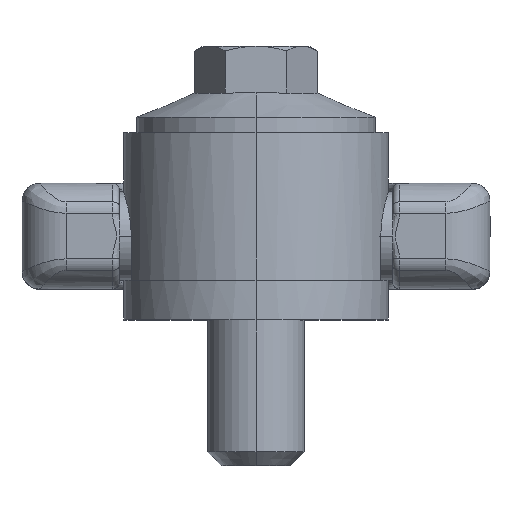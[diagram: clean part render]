
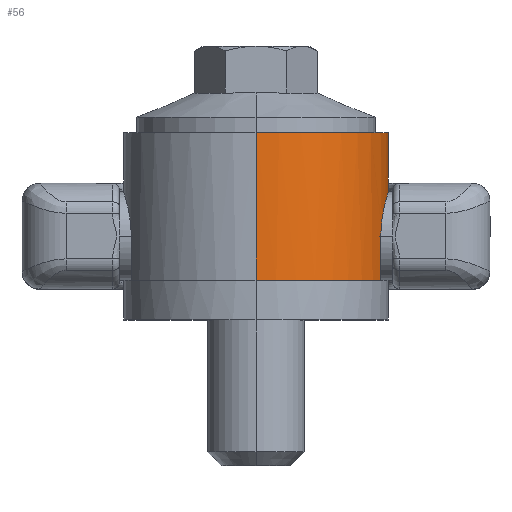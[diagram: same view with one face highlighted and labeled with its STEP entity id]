
A CAD part, top view. The second image highlights one B-rep face of the part: STEP entity #56.
In plain terms, the highlighted cylindrical face has radius 30 mm (diameter 60 mm), a partial arc.
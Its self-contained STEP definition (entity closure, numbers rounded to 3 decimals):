
#33 = EDGE_CURVE ( 'NONE', #55, #171, #5721, .T. ) ;
#38 = ORIENTED_EDGE ( 'NONE', *, *, #33, .T. ) ;
#39 = VERTEX_POINT ( 'NONE', #5768 ) ;
#50 = ORIENTED_EDGE ( 'NONE', *, *, #52, .F. ) ;
#52 = EDGE_CURVE ( 'NONE', #55, #39, #5809, .T. ) ;
#55 = VERTEX_POINT ( 'NONE', #5822 ) ;
#56 = ADVANCED_FACE ( 'NONE', ( #5821 ), #5820, .T. ) ;
#58 = EDGE_LOOP ( 'NONE', ( #50, #38, #275, #122, #117, #115, #96, #70 ) ) ;
#70 = ORIENTED_EDGE ( 'NONE', *, *, #156, .F. ) ;
#76 = EDGE_CURVE ( 'NONE', #77, #109, #5853, .T. ) ;
#77 = VERTEX_POINT ( 'NONE', #5849 ) ;
#96 = ORIENTED_EDGE ( 'NONE', *, *, #76, .F. ) ;
#109 = VERTEX_POINT ( 'NONE', #5937 ) ;
#114 = EDGE_CURVE ( 'NONE', #116, #109, #5925, .T. ) ;
#115 = ORIENTED_EDGE ( 'NONE', *, *, #114, .T. ) ;
#116 = VERTEX_POINT ( 'NONE', #5972 ) ;
#117 = ORIENTED_EDGE ( 'NONE', *, *, #118, .T. ) ;
#118 = EDGE_CURVE ( 'NONE', #121, #116, #5970, .T. ) ;
#121 = VERTEX_POINT ( 'NONE', #5969 ) ;
#122 = ORIENTED_EDGE ( 'NONE', *, *, #123, .T. ) ;
#123 = EDGE_CURVE ( 'NONE', #173, #121, #5996, .T. ) ;
#156 = EDGE_CURVE ( 'NONE', #39, #77, #6098, .T. ) ;
#171 = VERTEX_POINT ( 'NONE', #6113 ) ;
#173 = VERTEX_POINT ( 'NONE', #6112 ) ;
#267 = EDGE_CURVE ( 'NONE', #173, #171, #6363, .T. ) ;
#275 = ORIENTED_EDGE ( 'NONE', *, *, #267, .F. ) ;
#5718 = DIRECTION ( 'NONE',  ( 0., -1., 0. ) ) ;
#5719 = VECTOR ( 'NONE', #5718, 1000. ) ;
#5720 = CARTESIAN_POINT ( 'NONE',  ( 0., 62., 30. ) ) ;
#5721 = LINE ( 'NONE', #5720, #5719 ) ;
#5768 = CARTESIAN_POINT ( 'NONE',  ( 0., 42.4, -30. ) ) ;
#5805 = DIRECTION ( 'NONE',  ( 0., 0., 1. ) ) ;
#5806 = DIRECTION ( 'NONE',  ( 0., 1., 0. ) ) ;
#5807 = CARTESIAN_POINT ( 'NONE',  ( 0., 42.4, 0. ) ) ;
#5808 = AXIS2_PLACEMENT_3D ( 'NONE', #5807, #5806, #5805 ) ;
#5809 = CIRCLE ( 'NONE', #5808, 30. ) ;
#5816 = DIRECTION ( 'NONE',  ( 0., 0., -1. ) ) ;
#5817 = DIRECTION ( 'NONE',  ( 0., -1., 0. ) ) ;
#5818 = AXIS2_PLACEMENT_3D ( 'NONE', #5819, #5817, #5816 ) ;
#5819 = CARTESIAN_POINT ( 'NONE',  ( 0., 62., 0. ) ) ;
#5820 = CYLINDRICAL_SURFACE ( 'NONE', #5818, 30. ) ;
#5821 = FACE_OUTER_BOUND ( 'NONE', #58, .T. ) ;
#5822 = CARTESIAN_POINT ( 'NONE',  ( 0., 42.4, 30. ) ) ;
#5849 = CARTESIAN_POINT ( 'NONE',  ( 0., 9., -30. ) ) ;
#5850 = DIRECTION ( 'NONE',  ( 0., 0., -1. ) ) ;
#5851 = DIRECTION ( 'NONE',  ( 0., -1., 0. ) ) ;
#5852 = AXIS2_PLACEMENT_3D ( 'NONE', #5857, #5851, #5850 ) ;
#5853 = CIRCLE ( 'NONE', #5852, 30. ) ;
#5857 = CARTESIAN_POINT ( 'NONE',  ( 0., 9., 0. ) ) ;
#5925 = LINE ( 'NONE', #5975, #5974 ) ;
#5937 = CARTESIAN_POINT ( 'NONE',  ( 28.284, 9., -10. ) ) ;
#5945 = CARTESIAN_POINT ( 'NONE',  ( 30., 29.001, -0.647 ) ) ;
#5946 = CARTESIAN_POINT ( 'NONE',  ( 30., 28.999, 0.668 ) ) ;
#5947 = CARTESIAN_POINT ( 'NONE',  ( 29.978, 28.934, 1.32 ) ) ;
#5948 = CARTESIAN_POINT ( 'NONE',  ( 29.914, 28.74, 2.29 ) ) ;
#5949 = CARTESIAN_POINT ( 'NONE',  ( 29.888, 28.658, 2.613 ) ) ;
#5950 = CARTESIAN_POINT ( 'NONE',  ( 29.826, 28.466, 3.241 ) ) ;
#5951 = CARTESIAN_POINT ( 'NONE',  ( 29.791, 28.355, 3.548 ) ) ;
#5952 = CARTESIAN_POINT ( 'NONE',  ( 29.674, 27.979, 4.449 ) ) ;
#5953 = CARTESIAN_POINT ( 'NONE',  ( 29.582, 27.672, 5.023 ) ) ;
#5954 = CARTESIAN_POINT ( 'NONE',  ( 29.376, 26.94, 6.114 ) ) ;
#5955 = CARTESIAN_POINT ( 'NONE',  ( 29.266, 26.528, 6.614 ) ) ;
#5956 = CARTESIAN_POINT ( 'NONE',  ( 29.099, 25.841, 7.301 ) ) ;
#5957 = CARTESIAN_POINT ( 'NONE',  ( 29.043, 25.601, 7.519 ) ) ;
#5958 = CARTESIAN_POINT ( 'NONE',  ( 28.933, 25.097, 7.933 ) ) ;
#5959 = CARTESIAN_POINT ( 'NONE',  ( 28.878, 24.833, 8.129 ) ) ;
#5960 = CARTESIAN_POINT ( 'NONE',  ( 28.722, 24.021, 8.673 ) ) ;
#5961 = CARTESIAN_POINT ( 'NONE',  ( 28.626, 23.449, 8.98 ) ) ;
#5962 = CARTESIAN_POINT ( 'NONE',  ( 28.504, 22.543, 9.357 ) ) ;
#5963 = CARTESIAN_POINT ( 'NONE',  ( 28.466, 22.231, 9.469 ) ) ;
#5964 = CARTESIAN_POINT ( 'NONE',  ( 28.402, 21.6, 9.662 ) ) ;
#5965 = CARTESIAN_POINT ( 'NONE',  ( 28.374, 21.282, 9.742 ) ) ;
#5966 = CARTESIAN_POINT ( 'NONE',  ( 28.308, 20.319, 9.934 ) ) ;
#5967 = CARTESIAN_POINT ( 'NONE',  ( 28.284, 19.666, 10. ) ) ;
#5968 = CARTESIAN_POINT ( 'NONE',  ( 28.284, 19., 10. ) ) ;
#5969 = CARTESIAN_POINT ( 'NONE',  ( 28.284, 19., 10. ) ) ;
#5970 = B_SPLINE_CURVE_WITH_KNOTS ( 'NONE', 3,
 ( #5968, #5967, #5966, #5965, #5964, #5963, #5962, #5961, #5960, #5959, #5958, #5957, #5956, #5955, #5954, #5953, #5952, #5951, #5950, #5949, #5948, #5947, #5946, #5945, #6018, #6017, #6016, #6015, #6014, #6013, #6012, #6011, #6010, #6009, #6008, #6007, #6006, #6005, #6004, #6003, #6002, #6001, #6000, #5999, #5998, #5997 ),
 .UNSPECIFIED., .F., .F.,
 ( 4, 2, 2, 2, 2, 2, 2, 2, 2, 2, 2, 2, 2, 2, 2, 2, 2, 2, 2, 2, 2, 2, 4 ),
 ( 0., 0.002, 0.003, 0.004, 0.006, 0.007, 0.008, 0.01, 0.012, 0.013, 0.014, 0.016, 0.018, 0.02, 0.021, 0.022, 0.023, 0.024, 0.026, 0.028, 0.03, 0.03, 0.031 ),
 .UNSPECIFIED. ) ;
#5972 = CARTESIAN_POINT ( 'NONE',  ( 28.284, 19., -10. ) ) ;
#5973 = DIRECTION ( 'NONE',  ( 0., -1., 0. ) ) ;
#5974 = VECTOR ( 'NONE', #5973, 1000. ) ;
#5975 = CARTESIAN_POINT ( 'NONE',  ( 28.284, 62., -10. ) ) ;
#5993 = DIRECTION ( 'NONE',  ( 0., 1., 0. ) ) ;
#5994 = VECTOR ( 'NONE', #5993, 1000. ) ;
#5995 = CARTESIAN_POINT ( 'NONE',  ( 28.284, 62., 10. ) ) ;
#5996 = LINE ( 'NONE', #5995, #5994 ) ;
#5997 = CARTESIAN_POINT ( 'NONE',  ( 28.284, 19., -10. ) ) ;
#5998 = CARTESIAN_POINT ( 'NONE',  ( 28.284, 19.333, -10. ) ) ;
#5999 = CARTESIAN_POINT ( 'NONE',  ( 28.29, 19.664, -9.983 ) ) ;
#6000 = CARTESIAN_POINT ( 'NONE',  ( 28.313, 20.324, -9.917 ) ) ;
#6001 = CARTESIAN_POINT ( 'NONE',  ( 28.331, 20.654, -9.868 ) ) ;
#6002 = CARTESIAN_POINT ( 'NONE',  ( 28.398, 21.624, -9.672 ) ) ;
#6003 = CARTESIAN_POINT ( 'NONE',  ( 28.464, 22.247, -9.48 ) ) ;
#6004 = CARTESIAN_POINT ( 'NONE',  ( 28.626, 23.45, -8.979 ) ) ;
#6005 = CARTESIAN_POINT ( 'NONE',  ( 28.724, 24.034, -8.665 ) ) ;
#6006 = CARTESIAN_POINT ( 'NONE',  ( 28.933, 25.113, -7.94 ) ) ;
#6007 = CARTESIAN_POINT ( 'NONE',  ( 29.044, 25.613, -7.53 ) ) ;
#6008 = CARTESIAN_POINT ( 'NONE',  ( 29.211, 26.303, -6.839 ) ) ;
#6009 = CARTESIAN_POINT ( 'NONE',  ( 29.267, 26.524, -6.595 ) ) ;
#6010 = CARTESIAN_POINT ( 'NONE',  ( 29.376, 26.937, -6.091 ) ) ;
#6011 = CARTESIAN_POINT ( 'NONE',  ( 29.429, 27.131, -5.83 ) ) ;
#6012 = CARTESIAN_POINT ( 'NONE',  ( 29.531, 27.492, -5.291 ) ) ;
#6013 = CARTESIAN_POINT ( 'NONE',  ( 29.58, 27.659, -5.013 ) ) ;
#6014 = CARTESIAN_POINT ( 'NONE',  ( 29.671, 27.967, -4.438 ) ) ;
#6015 = CARTESIAN_POINT ( 'NONE',  ( 29.715, 28.109, -4.14 ) ) ;
#6016 = CARTESIAN_POINT ( 'NONE',  ( 29.832, 28.488, -3.227 ) ) ;
#6017 = CARTESIAN_POINT ( 'NONE',  ( 29.894, 28.678, -2.601 ) ) ;
#6018 = CARTESIAN_POINT ( 'NONE',  ( 29.978, 28.935, -1.315 ) ) ;
#6087 = DIRECTION ( 'NONE',  ( 0., -1., 0. ) ) ;
#6096 = VECTOR ( 'NONE', #6087, 1000. ) ;
#6097 = CARTESIAN_POINT ( 'NONE',  ( 0., 62., -30. ) ) ;
#6098 = LINE ( 'NONE', #6097, #6096 ) ;
#6112 = CARTESIAN_POINT ( 'NONE',  ( 28.284, 9., 10. ) ) ;
#6113 = CARTESIAN_POINT ( 'NONE',  ( 0., 9., 30. ) ) ;
#6360 = DIRECTION ( 'NONE',  ( 0., 0., -1. ) ) ;
#6361 = DIRECTION ( 'NONE',  ( 0., -1., 0. ) ) ;
#6362 = AXIS2_PLACEMENT_3D ( 'NONE', #6372, #6361, #6360 ) ;
#6363 = CIRCLE ( 'NONE', #6362, 30. ) ;
#6372 = CARTESIAN_POINT ( 'NONE',  ( 0., 9., 0. ) ) ;
